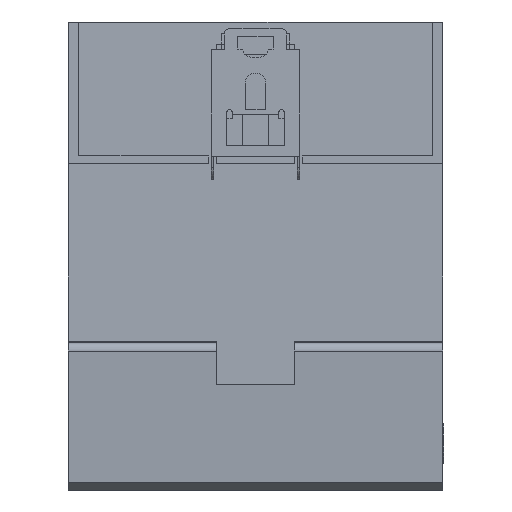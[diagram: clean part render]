
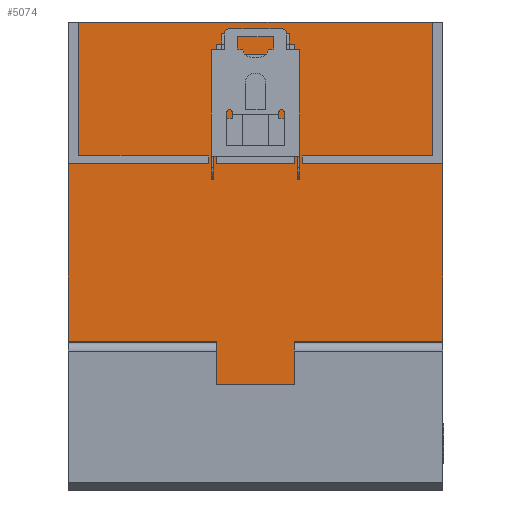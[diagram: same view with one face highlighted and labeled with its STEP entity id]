
A CAD part, left-side view. The second image highlights one B-rep face of the part: STEP entity #5074.
In plain terms, the highlighted planar face has unit normal (-1, 0, 0).
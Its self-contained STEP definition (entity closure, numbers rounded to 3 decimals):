
#4613=CARTESIAN_POINT('',(-14.5,34.,45.));
#4614=VERTEX_POINT('',#4613);
#4621=CARTESIAN_POINT('',(-14.5,-34.,45.));
#4622=VERTEX_POINT('',#4621);
#4623=CARTESIAN_POINT('',(-14.5,-34.,45.));
#4624=DIRECTION('',(-0.,1.,0.));
#4625=VECTOR('',#4624,68.);
#4626=LINE('',#4623,#4625);
#4627=EDGE_CURVE('',#4622,#4614,#4626,.T.);
#4770=CARTESIAN_POINT('',(-14.5,-36.,-18.5));
#4771=DIRECTION('',(-1.,0.,0.));
#4772=DIRECTION('',(0.,0.,-1.));
#4773=AXIS2_PLACEMENT_3D('',#4770,#4771,#4772);
#4774=PLANE('',#4773);
#4775=CARTESIAN_POINT('',(-14.5,-6.5,42.75));
#4776=VERTEX_POINT('',#4775);
#4777=CARTESIAN_POINT('',(-14.5,-6.5,40.75));
#4778=VERTEX_POINT('',#4777);
#4779=CARTESIAN_POINT('',(-14.5,-6.5,42.75));
#4780=DIRECTION('',(0.,0.,-1.));
#4781=VECTOR('',#4780,2.);
#4782=LINE('',#4779,#4781);
#4783=EDGE_CURVE('',#4776,#4778,#4782,.T.);
#4784=ORIENTED_EDGE('',*,*,#4783,.T.);
#4785=CARTESIAN_POINT('',(-14.5,-7.5,40.75));
#4786=VERTEX_POINT('',#4785);
#4787=CARTESIAN_POINT('',(-14.5,-6.5,40.75));
#4788=DIRECTION('',(0.,-1.,-0.));
#4789=VECTOR('',#4788,1.);
#4790=LINE('',#4787,#4789);
#4791=EDGE_CURVE('',#4778,#4786,#4790,.T.);
#4792=ORIENTED_EDGE('',*,*,#4791,.T.);
#4793=CARTESIAN_POINT('',(-14.5,-7.5,32.));
#4794=VERTEX_POINT('',#4793);
#4795=CARTESIAN_POINT('',(-14.5,-7.5,40.75));
#4796=DIRECTION('',(0.,0.,-1.));
#4797=VECTOR('',#4796,8.75);
#4798=LINE('',#4795,#4797);
#4799=EDGE_CURVE('',#4786,#4794,#4798,.T.);
#4800=ORIENTED_EDGE('',*,*,#4799,.T.);
#4801=CARTESIAN_POINT('',(-14.5,-4.5,32.));
#4802=VERTEX_POINT('',#4801);
#4803=CARTESIAN_POINT('',(-14.5,-7.5,32.));
#4804=DIRECTION('',(-0.,1.,0.));
#4805=VECTOR('',#4804,3.);
#4806=LINE('',#4803,#4805);
#4807=EDGE_CURVE('',#4794,#4802,#4806,.T.);
#4808=ORIENTED_EDGE('',*,*,#4807,.T.);
#4809=CARTESIAN_POINT('',(-14.5,-4.5,26.5));
#4810=VERTEX_POINT('',#4809);
#4811=CARTESIAN_POINT('',(-14.5,-4.5,32.));
#4812=DIRECTION('',(0.,0.,-1.));
#4813=VECTOR('',#4812,5.5);
#4814=LINE('',#4811,#4813);
#4815=EDGE_CURVE('',#4802,#4810,#4814,.T.);
#4816=ORIENTED_EDGE('',*,*,#4815,.T.);
#4817=CARTESIAN_POINT('',(-14.5,-7.5,26.5));
#4818=VERTEX_POINT('',#4817);
#4819=CARTESIAN_POINT('',(-14.5,-4.5,26.5));
#4820=DIRECTION('',(0.,-1.,-0.));
#4821=VECTOR('',#4820,3.);
#4822=LINE('',#4819,#4821);
#4823=EDGE_CURVE('',#4810,#4818,#4822,.T.);
#4824=ORIENTED_EDGE('',*,*,#4823,.T.);
#4825=CARTESIAN_POINT('',(-14.5,-7.5,17.75));
#4826=VERTEX_POINT('',#4825);
#4827=CARTESIAN_POINT('',(-14.5,-7.5,26.5));
#4828=DIRECTION('',(0.,0.,-1.));
#4829=VECTOR('',#4828,8.75);
#4830=LINE('',#4827,#4829);
#4831=EDGE_CURVE('',#4818,#4826,#4830,.T.);
#4832=ORIENTED_EDGE('',*,*,#4831,.T.);
#4833=CARTESIAN_POINT('',(-14.5,-0.,17.75));
#4834=VERTEX_POINT('',#4833);
#4835=CARTESIAN_POINT('',(-14.5,-7.5,17.75));
#4836=DIRECTION('',(-0.,1.,0.));
#4837=VECTOR('',#4836,7.5);
#4838=LINE('',#4835,#4837);
#4839=EDGE_CURVE('',#4826,#4834,#4838,.T.);
#4840=ORIENTED_EDGE('',*,*,#4839,.T.);
#4841=CARTESIAN_POINT('',(-14.5,7.5,17.75));
#4842=VERTEX_POINT('',#4841);
#4843=CARTESIAN_POINT('',(-14.5,-0.,17.75));
#4844=DIRECTION('',(-0.,1.,0.));
#4845=VECTOR('',#4844,7.5);
#4846=LINE('',#4843,#4845);
#4847=EDGE_CURVE('',#4834,#4842,#4846,.T.);
#4848=ORIENTED_EDGE('',*,*,#4847,.T.);
#4849=CARTESIAN_POINT('',(-14.5,7.5,26.5));
#4850=VERTEX_POINT('',#4849);
#4851=CARTESIAN_POINT('',(-14.5,7.5,17.75));
#4852=DIRECTION('',(-0.,-0.,1.));
#4853=VECTOR('',#4852,8.75);
#4854=LINE('',#4851,#4853);
#4855=EDGE_CURVE('',#4842,#4850,#4854,.T.);
#4856=ORIENTED_EDGE('',*,*,#4855,.T.);
#4857=CARTESIAN_POINT('',(-14.5,4.5,26.5));
#4858=VERTEX_POINT('',#4857);
#4859=CARTESIAN_POINT('',(-14.5,7.5,26.5));
#4860=DIRECTION('',(0.,-1.,-0.));
#4861=VECTOR('',#4860,3.);
#4862=LINE('',#4859,#4861);
#4863=EDGE_CURVE('',#4850,#4858,#4862,.T.);
#4864=ORIENTED_EDGE('',*,*,#4863,.T.);
#4865=CARTESIAN_POINT('',(-14.5,4.5,32.));
#4866=VERTEX_POINT('',#4865);
#4867=CARTESIAN_POINT('',(-14.5,4.5,26.5));
#4868=DIRECTION('',(-0.,-0.,1.));
#4869=VECTOR('',#4868,5.5);
#4870=LINE('',#4867,#4869);
#4871=EDGE_CURVE('',#4858,#4866,#4870,.T.);
#4872=ORIENTED_EDGE('',*,*,#4871,.T.);
#4873=CARTESIAN_POINT('',(-14.5,7.5,32.));
#4874=VERTEX_POINT('',#4873);
#4875=CARTESIAN_POINT('',(-14.5,4.5,32.));
#4876=DIRECTION('',(-0.,1.,0.));
#4877=VECTOR('',#4876,3.);
#4878=LINE('',#4875,#4877);
#4879=EDGE_CURVE('',#4866,#4874,#4878,.T.);
#4880=ORIENTED_EDGE('',*,*,#4879,.T.);
#4881=CARTESIAN_POINT('',(-14.5,7.5,40.75));
#4882=VERTEX_POINT('',#4881);
#4883=CARTESIAN_POINT('',(-14.5,7.5,32.));
#4884=DIRECTION('',(-0.,-0.,1.));
#4885=VECTOR('',#4884,8.75);
#4886=LINE('',#4883,#4885);
#4887=EDGE_CURVE('',#4874,#4882,#4886,.T.);
#4888=ORIENTED_EDGE('',*,*,#4887,.T.);
#4889=CARTESIAN_POINT('',(-14.5,6.5,40.75));
#4890=VERTEX_POINT('',#4889);
#4891=CARTESIAN_POINT('',(-14.5,7.5,40.75));
#4892=DIRECTION('',(0.,-1.,-0.));
#4893=VECTOR('',#4892,1.);
#4894=LINE('',#4891,#4893);
#4895=EDGE_CURVE('',#4882,#4890,#4894,.T.);
#4896=ORIENTED_EDGE('',*,*,#4895,.T.);
#4897=CARTESIAN_POINT('',(-14.5,6.5,42.75));
#4898=VERTEX_POINT('',#4897);
#4899=CARTESIAN_POINT('',(-14.5,6.5,40.75));
#4900=DIRECTION('',(-0.,-0.,1.));
#4901=VECTOR('',#4900,2.);
#4902=LINE('',#4899,#4901);
#4903=EDGE_CURVE('',#4890,#4898,#4902,.T.);
#4904=ORIENTED_EDGE('',*,*,#4903,.T.);
#4905=CARTESIAN_POINT('',(-14.5,4.5,42.75));
#4906=VERTEX_POINT('',#4905);
#4907=CARTESIAN_POINT('',(-14.5,6.5,42.75));
#4908=DIRECTION('',(0.,-1.,-0.));
#4909=VECTOR('',#4908,2.);
#4910=LINE('',#4907,#4909);
#4911=EDGE_CURVE('',#4898,#4906,#4910,.T.);
#4912=ORIENTED_EDGE('',*,*,#4911,.T.);
#4913=CARTESIAN_POINT('',(-14.5,4.5,38.7));
#4914=VERTEX_POINT('',#4913);
#4915=CARTESIAN_POINT('',(-14.5,4.5,42.75));
#4916=DIRECTION('',(0.,0.,-1.));
#4917=VECTOR('',#4916,4.05);
#4918=LINE('',#4915,#4917);
#4919=EDGE_CURVE('',#4906,#4914,#4918,.T.);
#4920=ORIENTED_EDGE('',*,*,#4919,.T.);
#4921=CARTESIAN_POINT('',(-14.5,-0.,38.7));
#4922=VERTEX_POINT('',#4921);
#4923=CARTESIAN_POINT('',(-14.5,4.5,38.7));
#4924=DIRECTION('',(0.,-1.,-0.));
#4925=VECTOR('',#4924,4.5);
#4926=LINE('',#4923,#4925);
#4927=EDGE_CURVE('',#4914,#4922,#4926,.T.);
#4928=ORIENTED_EDGE('',*,*,#4927,.T.);
#4929=CARTESIAN_POINT('',(-14.5,-4.5,38.7));
#4930=VERTEX_POINT('',#4929);
#4931=CARTESIAN_POINT('',(-14.5,-0.,38.7));
#4932=DIRECTION('',(0.,-1.,-0.));
#4933=VECTOR('',#4932,4.5);
#4934=LINE('',#4931,#4933);
#4935=EDGE_CURVE('',#4922,#4930,#4934,.T.);
#4936=ORIENTED_EDGE('',*,*,#4935,.T.);
#4937=CARTESIAN_POINT('',(-14.5,-4.5,42.75));
#4938=VERTEX_POINT('',#4937);
#4939=CARTESIAN_POINT('',(-14.5,-4.5,38.7));
#4940=DIRECTION('',(-0.,-0.,1.));
#4941=VECTOR('',#4940,4.05);
#4942=LINE('',#4939,#4941);
#4943=EDGE_CURVE('',#4930,#4938,#4942,.T.);
#4944=ORIENTED_EDGE('',*,*,#4943,.T.);
#4945=CARTESIAN_POINT('',(-14.5,-4.5,42.75));
#4946=DIRECTION('',(0.,-1.,-0.));
#4947=VECTOR('',#4946,2.);
#4948=LINE('',#4945,#4947);
#4949=EDGE_CURVE('',#4938,#4776,#4948,.T.);
#4950=ORIENTED_EDGE('',*,*,#4949,.T.);
#4951=EDGE_LOOP('',(#4784,#4792,#4800,#4808,#4816,#4824,#4832,#4840,#4848,#4856,#4864,#4872,#4880,#4888,#4896,#4904,#4912,#4920,#4928,#4936,#4944,#4950));
#4952=FACE_BOUND('',#4951,.T.);
#4953=CARTESIAN_POINT('',(-14.5,-36.,-18.5));
#4954=VERTEX_POINT('',#4953);
#4955=CARTESIAN_POINT('',(-14.5,-36.,17.75));
#4956=VERTEX_POINT('',#4955);
#4957=CARTESIAN_POINT('',(-14.5,-36.,-18.5));
#4958=DIRECTION('',(-0.,-0.,1.));
#4959=VECTOR('',#4958,36.25);
#4960=LINE('',#4957,#4959);
#4961=EDGE_CURVE('',#4954,#4956,#4960,.T.);
#4962=ORIENTED_EDGE('',*,*,#4961,.T.);
#4963=CARTESIAN_POINT('',(-14.5,-9.,17.75));
#4964=VERTEX_POINT('',#4963);
#4965=CARTESIAN_POINT('',(-14.5,-36.,17.75));
#4966=DIRECTION('',(-0.,1.,0.));
#4967=VECTOR('',#4966,27.);
#4968=LINE('',#4965,#4967);
#4969=EDGE_CURVE('',#4956,#4964,#4968,.T.);
#4970=ORIENTED_EDGE('',*,*,#4969,.T.);
#4971=CARTESIAN_POINT('',(-14.5,-9.,19.25));
#4972=VERTEX_POINT('',#4971);
#4973=CARTESIAN_POINT('',(-14.5,-9.,17.75));
#4974=DIRECTION('',(-0.,-0.,1.));
#4975=VECTOR('',#4974,1.5);
#4976=LINE('',#4973,#4975);
#4977=EDGE_CURVE('',#4964,#4972,#4976,.T.);
#4978=ORIENTED_EDGE('',*,*,#4977,.T.);
#4979=CARTESIAN_POINT('',(-14.5,-34.,19.25));
#4980=VERTEX_POINT('',#4979);
#4981=CARTESIAN_POINT('',(-14.5,-9.,19.25));
#4982=DIRECTION('',(0.,-1.,-0.));
#4983=VECTOR('',#4982,25.);
#4984=LINE('',#4981,#4983);
#4985=EDGE_CURVE('',#4972,#4980,#4984,.T.);
#4986=ORIENTED_EDGE('',*,*,#4985,.T.);
#4987=CARTESIAN_POINT('',(-14.5,-34.,19.25));
#4988=DIRECTION('',(-0.,-0.,1.));
#4989=VECTOR('',#4988,25.75);
#4990=LINE('',#4987,#4989);
#4991=EDGE_CURVE('',#4980,#4622,#4990,.T.);
#4992=ORIENTED_EDGE('',*,*,#4991,.T.);
#4993=ORIENTED_EDGE('',*,*,#4627,.T.);
#4994=CARTESIAN_POINT('',(-14.5,34.,19.25));
#4995=VERTEX_POINT('',#4994);
#4996=CARTESIAN_POINT('',(-14.5,34.,45.));
#4997=DIRECTION('',(0.,0.,-1.));
#4998=VECTOR('',#4997,25.75);
#4999=LINE('',#4996,#4998);
#5000=EDGE_CURVE('',#4614,#4995,#4999,.T.);
#5001=ORIENTED_EDGE('',*,*,#5000,.T.);
#5002=CARTESIAN_POINT('',(-14.5,9.,19.25));
#5003=VERTEX_POINT('',#5002);
#5004=CARTESIAN_POINT('',(-14.5,34.,19.25));
#5005=DIRECTION('',(0.,-1.,-0.));
#5006=VECTOR('',#5005,25.);
#5007=LINE('',#5004,#5006);
#5008=EDGE_CURVE('',#4995,#5003,#5007,.T.);
#5009=ORIENTED_EDGE('',*,*,#5008,.T.);
#5010=CARTESIAN_POINT('',(-14.5,9.,17.75));
#5011=VERTEX_POINT('',#5010);
#5012=CARTESIAN_POINT('',(-14.5,9.,19.25));
#5013=DIRECTION('',(0.,0.,-1.));
#5014=VECTOR('',#5013,1.5);
#5015=LINE('',#5012,#5014);
#5016=EDGE_CURVE('',#5003,#5011,#5015,.T.);
#5017=ORIENTED_EDGE('',*,*,#5016,.T.);
#5018=CARTESIAN_POINT('',(-14.5,36.,17.75));
#5019=VERTEX_POINT('',#5018);
#5020=CARTESIAN_POINT('',(-14.5,9.,17.75));
#5021=DIRECTION('',(-0.,1.,0.));
#5022=VECTOR('',#5021,27.);
#5023=LINE('',#5020,#5022);
#5024=EDGE_CURVE('',#5011,#5019,#5023,.T.);
#5025=ORIENTED_EDGE('',*,*,#5024,.T.);
#5026=CARTESIAN_POINT('',(-14.5,36.,-18.5));
#5027=VERTEX_POINT('',#5026);
#5028=CARTESIAN_POINT('',(-14.5,36.,-18.5));
#5029=DIRECTION('',(-0.,-0.,1.));
#5030=VECTOR('',#5029,36.25);
#5031=LINE('',#5028,#5030);
#5032=EDGE_CURVE('',#5027,#5019,#5031,.T.);
#5033=ORIENTED_EDGE('',*,*,#5032,.F.);
#5034=CARTESIAN_POINT('',(-14.5,7.5,-18.5));
#5035=VERTEX_POINT('',#5034);
#5036=CARTESIAN_POINT('',(-14.5,7.5,-18.5));
#5037=DIRECTION('',(-0.,1.,0.));
#5038=VECTOR('',#5037,28.5);
#5039=LINE('',#5036,#5038);
#5040=EDGE_CURVE('',#5035,#5027,#5039,.T.);
#5041=ORIENTED_EDGE('',*,*,#5040,.F.);
#5042=CARTESIAN_POINT('',(-14.5,7.5,-24.75));
#5043=VERTEX_POINT('',#5042);
#5044=CARTESIAN_POINT('',(-14.5,7.5,-24.75));
#5045=DIRECTION('',(-0.,-0.,1.));
#5046=VECTOR('',#5045,6.25);
#5047=LINE('',#5044,#5046);
#5048=EDGE_CURVE('',#5043,#5035,#5047,.T.);
#5049=ORIENTED_EDGE('',*,*,#5048,.F.);
#5050=CARTESIAN_POINT('',(-14.5,-7.5,-24.75));
#5051=VERTEX_POINT('',#5050);
#5052=CARTESIAN_POINT('',(-14.5,-7.5,-24.75));
#5053=DIRECTION('',(-0.,1.,0.));
#5054=VECTOR('',#5053,15.);
#5055=LINE('',#5052,#5054);
#5056=EDGE_CURVE('',#5051,#5043,#5055,.T.);
#5057=ORIENTED_EDGE('',*,*,#5056,.F.);
#5058=CARTESIAN_POINT('',(-14.5,-7.5,-18.5));
#5059=VERTEX_POINT('',#5058);
#5060=CARTESIAN_POINT('',(-14.5,-7.5,-18.5));
#5061=DIRECTION('',(0.,0.,-1.));
#5062=VECTOR('',#5061,6.25);
#5063=LINE('',#5060,#5062);
#5064=EDGE_CURVE('',#5059,#5051,#5063,.T.);
#5065=ORIENTED_EDGE('',*,*,#5064,.F.);
#5066=CARTESIAN_POINT('',(-14.5,-36.,-18.5));
#5067=DIRECTION('',(-0.,1.,0.));
#5068=VECTOR('',#5067,28.5);
#5069=LINE('',#5066,#5068);
#5070=EDGE_CURVE('',#4954,#5059,#5069,.T.);
#5071=ORIENTED_EDGE('',*,*,#5070,.F.);
#5072=EDGE_LOOP('',(#4962,#4970,#4978,#4986,#4992,#4993,#5001,#5009,#5017,#5025,#5033,#5041,#5049,#5057,#5065,#5071));
#5073=FACE_BOUND('',#5072,.T.);
#5074=ADVANCED_FACE('',(#4952,#5073),#4774,.T.);
